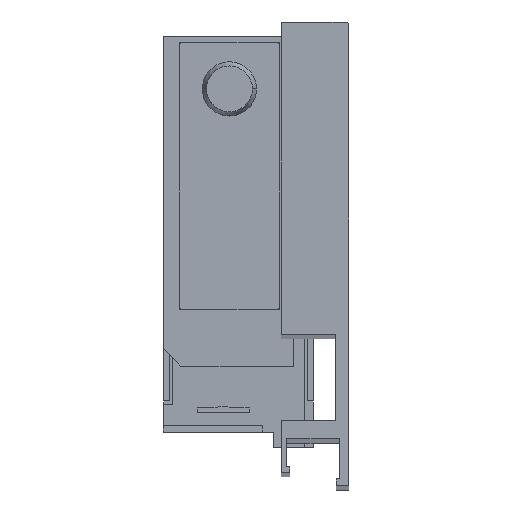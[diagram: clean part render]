
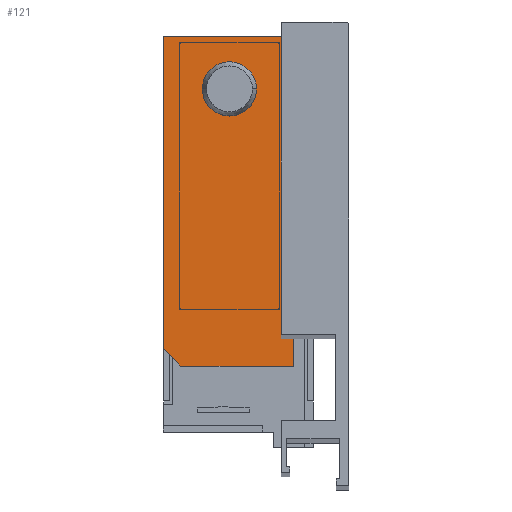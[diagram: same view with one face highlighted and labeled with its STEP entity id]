
A CAD part, top view. The second image highlights one B-rep face of the part: STEP entity #121.
In plain terms, the highlighted planar face has unit normal (0, 0, 1).
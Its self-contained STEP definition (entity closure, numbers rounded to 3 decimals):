
#15 = DIRECTION ( 'NONE',  ( 1., 0., 0. ) ) ;
#16 = LINE ( 'NONE', #2550, #1128 ) ;
#54 = EDGE_CURVE ( 'NONE', #359, #3146, #1038, .T. ) ;
#62 = DIRECTION ( 'NONE',  ( 0., 1., 0. ) ) ;
#68 = EDGE_LOOP ( 'NONE', ( #231, #2737, #1097, #1409, #571, #2690, #1190 ) ) ;
#73 = VECTOR ( 'NONE', #2343, 1000. ) ;
#83 = CARTESIAN_POINT ( 'NONE',  ( 1.7, 0., -490. ) ) ;
#86 = CARTESIAN_POINT ( 'NONE',  ( -20.4, 48., -490. ) ) ;
#99 = CARTESIAN_POINT ( 'NONE',  ( -33.1, 58., -490. ) ) ;
#121 = ADVANCED_FACE ( 'NONE', ( #234, #657 ), #1501, .T. ) ;
#174 = VERTEX_POINT ( 'NONE', #1422 ) ;
#175 = LINE ( 'NONE', #1626, #981 ) ;
#231 = ORIENTED_EDGE ( 'NONE', *, *, #403, .T. ) ;
#234 = FACE_OUTER_BOUND ( 'NONE', #68, .T. ) ;
#279 = LINE ( 'NONE', #1964, #1416 ) ;
#342 = DIRECTION ( 'NONE',  ( 1., 0., 0. ) ) ;
#359 = VERTEX_POINT ( 'NONE', #1400 ) ;
#383 = DIRECTION ( 'NONE',  ( 0., 0., 1. ) ) ;
#403 = EDGE_CURVE ( 'NONE', #1283, #3056, #2365, .T. ) ;
#571 = ORIENTED_EDGE ( 'NONE', *, *, #946, .T. ) ;
#657 = FACE_BOUND ( 'NONE', #1896, .T. ) ;
#666 = CARTESIAN_POINT ( 'NONE',  ( -25.6, 48., -490. ) ) ;
#704 = DIRECTION ( 'NONE',  ( 1., 0., 0. ) ) ;
#787 = CARTESIAN_POINT ( 'NONE',  ( -20.4, 48., -490. ) ) ;
#862 = CARTESIAN_POINT ( 'NONE',  ( -8.1, -5.2, -490. ) ) ;
#872 = ORIENTED_EDGE ( 'NONE', *, *, #1464, .T. ) ;
#906 = VERTEX_POINT ( 'NONE', #1173 ) ;
#946 = EDGE_CURVE ( 'NONE', #906, #359, #2825, .T. ) ;
#981 = VECTOR ( 'NONE', #3106, 1000. ) ;
#1032 = DIRECTION ( 'NONE',  ( 1., 0., 0. ) ) ;
#1038 = LINE ( 'NONE', #2115, #73 ) ;
#1097 = ORIENTED_EDGE ( 'NONE', *, *, #1582, .T. ) ;
#1121 = VERTEX_POINT ( 'NONE', #1368 ) ;
#1128 = VECTOR ( 'NONE', #1300, 1000. ) ;
#1173 = CARTESIAN_POINT ( 'NONE',  ( -33.1, 58., -490. ) ) ;
#1180 = VERTEX_POINT ( 'NONE', #666 ) ;
#1190 = ORIENTED_EDGE ( 'NONE', *, *, #2539, .T. ) ;
#1283 = VERTEX_POINT ( 'NONE', #2183 ) ;
#1300 = DIRECTION ( 'NONE',  ( 0., 1., 0. ) ) ;
#1304 = DIRECTION ( 'NONE',  ( -1., 0., 0. ) ) ;
#1347 = VECTOR ( 'NONE', #2577, 1000. ) ;
#1368 = CARTESIAN_POINT ( 'NONE',  ( -10.5, 0., -490. ) ) ;
#1400 = CARTESIAN_POINT ( 'NONE',  ( -33.1, -1.85, -490. ) ) ;
#1409 = ORIENTED_EDGE ( 'NONE', *, *, #1811, .T. ) ;
#1416 = VECTOR ( 'NONE', #15, 1000. ) ;
#1422 = CARTESIAN_POINT ( 'NONE',  ( -10.5, 58., -490. ) ) ;
#1458 = VECTOR ( 'NONE', #1304, 1000. ) ;
#1464 = EDGE_CURVE ( 'NONE', #2267, #1180, #2797, .T. ) ;
#1501 = PLANE ( 'NONE',  #1737 ) ;
#1582 = EDGE_CURVE ( 'NONE', #1121, #174, #16, .T. ) ;
#1626 = CARTESIAN_POINT ( 'NONE',  ( -5.45, 58., -490. ) ) ;
#1710 = ORIENTED_EDGE ( 'NONE', *, *, #2098, .T. ) ;
#1737 = AXIS2_PLACEMENT_3D ( 'NONE', #1810, #383, #704 ) ;
#1800 = DIRECTION ( 'NONE',  ( 0., 0., -1. ) ) ;
#1810 = CARTESIAN_POINT ( 'NONE',  ( 0., 0., -490. ) ) ;
#1811 = EDGE_CURVE ( 'NONE', #174, #906, #175, .T. ) ;
#1896 = EDGE_LOOP ( 'NONE', ( #1710, #872 ) ) ;
#1934 = AXIS2_PLACEMENT_3D ( 'NONE', #787, #2518, #1032 ) ;
#1935 = CARTESIAN_POINT ( 'NONE',  ( -8.1, 0., -490. ) ) ;
#1964 = CARTESIAN_POINT ( 'NONE',  ( -29.75, -5.2, -490. ) ) ;
#1978 = LINE ( 'NONE', #83, #1458 ) ;
#2098 = EDGE_CURVE ( 'NONE', #1180, #2267, #2488, .T. ) ;
#2115 = CARTESIAN_POINT ( 'NONE',  ( -33.1, -1.85, -490. ) ) ;
#2183 = CARTESIAN_POINT ( 'NONE',  ( -8.1, -5.2, -490. ) ) ;
#2225 = VECTOR ( 'NONE', #62, 1000. ) ;
#2267 = VERTEX_POINT ( 'NONE', #3094 ) ;
#2343 = DIRECTION ( 'NONE',  ( 0.707, -0.707, 0. ) ) ;
#2365 = LINE ( 'NONE', #862, #2225 ) ;
#2488 = CIRCLE ( 'NONE', #2660, 5.2 ) ;
#2518 = DIRECTION ( 'NONE',  ( 0., 0., -1. ) ) ;
#2539 = EDGE_CURVE ( 'NONE', #3146, #1283, #279, .T. ) ;
#2550 = CARTESIAN_POINT ( 'NONE',  ( -10.5, 59.9, -490. ) ) ;
#2577 = DIRECTION ( 'NONE',  ( 0., -1., 0. ) ) ;
#2660 = AXIS2_PLACEMENT_3D ( 'NONE', #86, #1800, #342 ) ;
#2690 = ORIENTED_EDGE ( 'NONE', *, *, #54, .T. ) ;
#2729 = EDGE_CURVE ( 'NONE', #3056, #1121, #1978, .T. ) ;
#2737 = ORIENTED_EDGE ( 'NONE', *, *, #2729, .T. ) ;
#2797 = CIRCLE ( 'NONE', #1934, 5.2 ) ;
#2825 = LINE ( 'NONE', #99, #1347 ) ;
#2971 = CARTESIAN_POINT ( 'NONE',  ( -29.75, -5.2, -490. ) ) ;
#3056 = VERTEX_POINT ( 'NONE', #1935 ) ;
#3094 = CARTESIAN_POINT ( 'NONE',  ( -15.2, 48., -490. ) ) ;
#3106 = DIRECTION ( 'NONE',  ( -1., 0., 0. ) ) ;
#3146 = VERTEX_POINT ( 'NONE', #2971 ) ;
